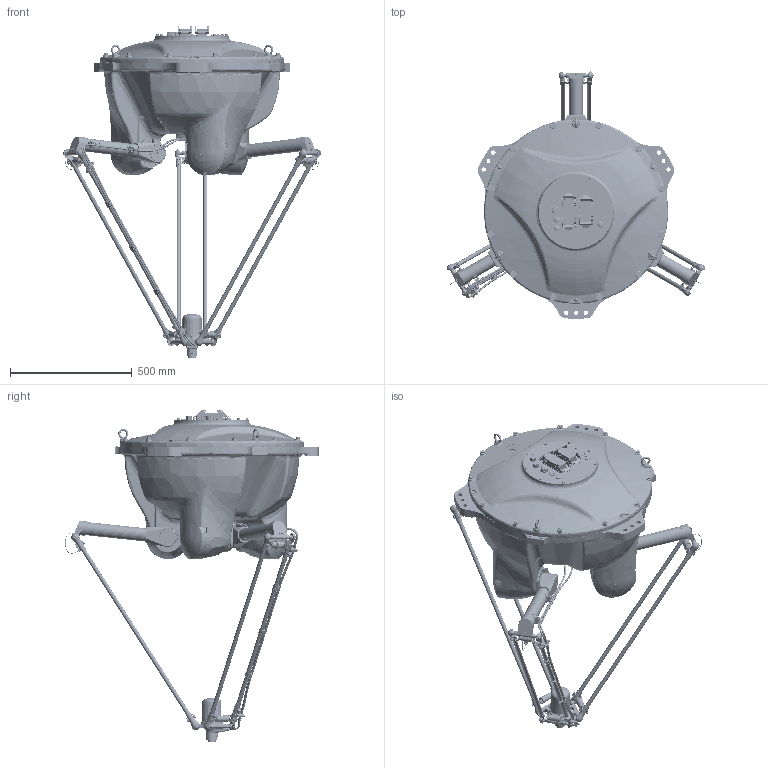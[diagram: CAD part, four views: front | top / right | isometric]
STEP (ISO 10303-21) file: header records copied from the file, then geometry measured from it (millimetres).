
FILE_DESCRIPTION(('CATIA V5 STEP Exchange'),'2;1');
FILE_NAME('D:\モデリング\☆☆☆STEP\YF\YF003N-A001\RARAS_200805\軽量化\Part\Part\YF003N-A001.stp','2020-08-25T01:47:02+00:00',('none'),('none'),'CATIA Version 5-6 Release 2016 SP6 HF14','CATIA V5 STEP AP203','none');
FILE_SCHEMA(('CONFIG_CONTROL_DESIGN'));
Length unit declared in the file: millimetre
Products named in the file (1): YF003N-A001
Assembly tree (20 placements, depth 2):
  YF003N-A001
    #57
    #121455
    #126987
    #142051
    #147869
    #150528
    #153081
    #155728
    #166483
    #169044
    #171597
    #177754
    #183374
    #189531
    #195151
    #201308
    #206928
    #211120
    #235949
    #249724
Bounding box: 1058.47 x 1041.3 x 1362.45 mm (x, y, z)
Volume: 141990676.4 mm3; surface area: 3816106.4 mm2
Topology: 46 solids, 46 shells, 7011 faces, 17845 edges, 11092 vertices
Faces by surface type: plane 3067, cylinder 2436, bspline 437, torus 427, sphere 305, cone 240, extrusion 57, revolution 42
Entity records: 251584 total; most frequent: CARTESIAN_POINT 96502, ORIENTED_EDGE 35180, DIRECTION 25241, EDGE_CURVE 17590, AXIS2_PLACEMENT_3D 11291, VERTEX_POINT 11092, VECTOR 8707, LINE 8650
